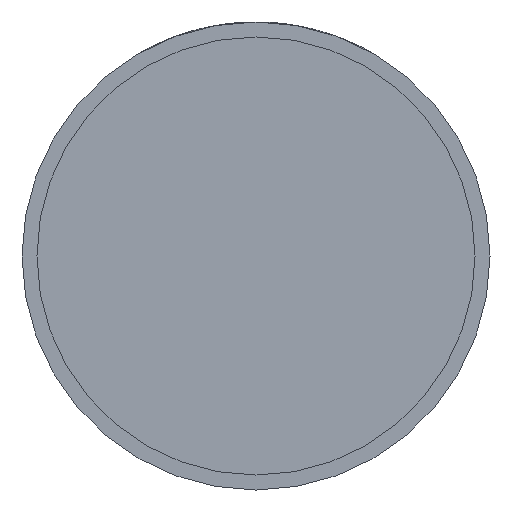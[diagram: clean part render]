
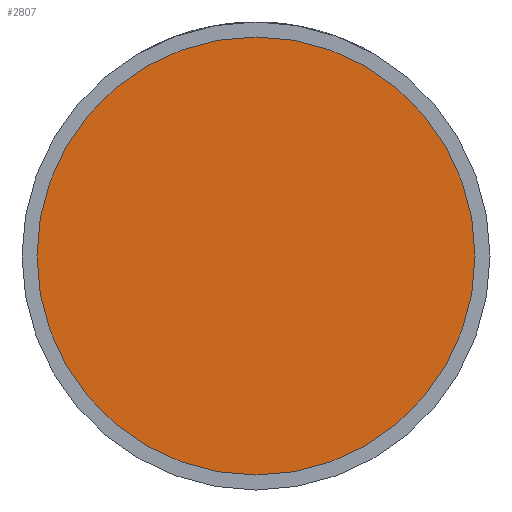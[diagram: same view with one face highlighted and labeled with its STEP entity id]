
A CAD part, front view. The second image highlights one B-rep face of the part: STEP entity #2807.
In plain terms, the highlighted planar face has unit normal (0, -1, 0).
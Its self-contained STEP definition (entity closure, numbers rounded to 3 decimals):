
#136 = EDGE_LOOP ( 'NONE', ( #2029, #2735 ) ) ;
#313 = DIRECTION ( 'NONE',  ( 0., -1., 0. ) ) ;
#411 = CARTESIAN_POINT ( 'NONE',  ( 33.7, -20., 0. ) ) ;
#463 = VERTEX_POINT ( 'NONE', #411 ) ;
#476 = DIRECTION ( 'NONE',  ( 1., 0., 0. ) ) ;
#546 = CARTESIAN_POINT ( 'NONE',  ( 0., -20., 0. ) ) ;
#563 = DIRECTION ( 'NONE',  ( 0., -1., 0. ) ) ;
#741 = CARTESIAN_POINT ( 'NONE',  ( 0., -20., 0. ) ) ;
#1151 = DIRECTION ( 'NONE',  ( 0., -1., 0. ) ) ;
#1337 = DIRECTION ( 'NONE',  ( 1., 0., 0. ) ) ;
#1628 = AXIS2_PLACEMENT_3D ( 'NONE', #546, #563, #3229 ) ;
#2029 = ORIENTED_EDGE ( 'NONE', *, *, #2576, .T. ) ;
#2066 = AXIS2_PLACEMENT_3D ( 'NONE', #3983, #313, #1337 ) ;
#2576 = EDGE_CURVE ( 'NONE', #463, #3180, #3036, .T. ) ;
#2735 = ORIENTED_EDGE ( 'NONE', *, *, #3845, .T. ) ;
#2807 = ADVANCED_FACE ( 'NONE', ( #4283 ), #3672, .T. ) ;
#2833 = AXIS2_PLACEMENT_3D ( 'NONE', #741, #1151, #476 ) ;
#3036 = CIRCLE ( 'NONE', #2833, 33.7 ) ;
#3180 = VERTEX_POINT ( 'NONE', #3632 ) ;
#3229 = DIRECTION ( 'NONE',  ( 1., 0., 0. ) ) ;
#3632 = CARTESIAN_POINT ( 'NONE',  ( -33.7, -20., 0. ) ) ;
#3672 = PLANE ( 'NONE',  #2066 ) ;
#3845 = EDGE_CURVE ( 'NONE', #3180, #463, #4024, .T. ) ;
#3983 = CARTESIAN_POINT ( 'NONE',  ( 33.7, -20., 0. ) ) ;
#4024 = CIRCLE ( 'NONE', #1628, 33.7 ) ;
#4283 = FACE_OUTER_BOUND ( 'NONE', #136, .T. ) ;
